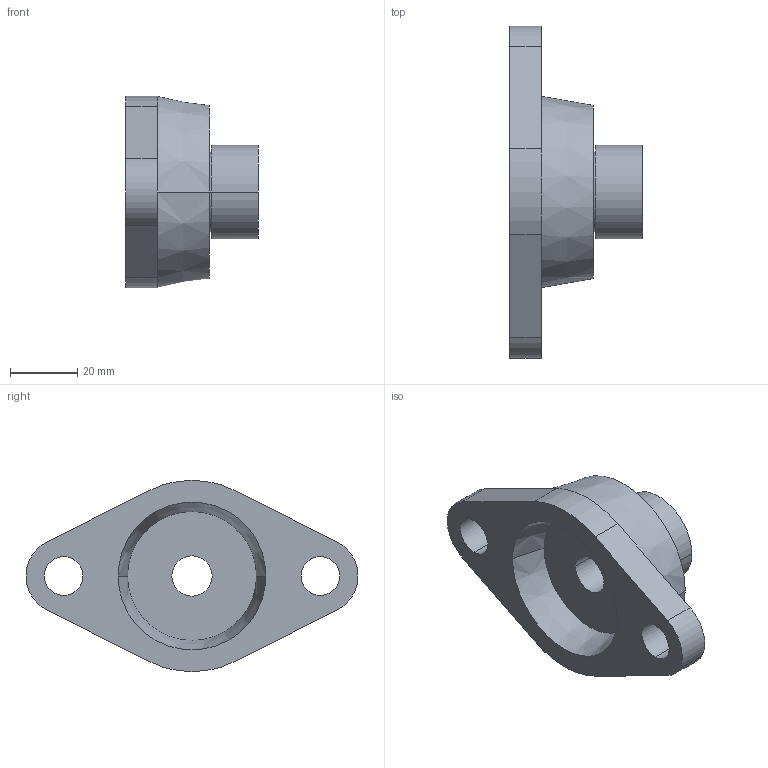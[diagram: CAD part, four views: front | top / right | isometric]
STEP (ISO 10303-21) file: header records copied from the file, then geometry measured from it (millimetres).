
FILE_DESCRIPTION(('SolidDesigner STEP Export'),'2;1');
FILE_NAME('Flanschlager_PCJT_12.stp','2002-07-16T10:48:38',(''),(''),'SolidDesigner STEP processor Version: 9.0 (March 2001)for AP214(CD)(Solid Model)','CoCreate SolidDesigner: 11.00 12-Dec-2001(C) CoCreate Software GmbH','');
FILE_SCHEMA(('AUTOMOTIVE_DESIGN_CC2 {1 2 10303 214 -1 1 5 1}'));
Length unit declared in the file: millimetre
Products named in the file (1): Flanschlager_PCJT_12
Bounding box: 39.6 x 98.92 x 57 mm (x, y, z)
Volume: 59729.7 mm3; surface area: 16195.4 mm2
Topology: 1 solids, 1 shells, 32 faces, 75 edges, 49 vertices
Faces by surface type: cylinder 16, plane 12, cone 4
Entity records: 832 total; most frequent: ORIENTED_EDGE 150, CARTESIAN_POINT 129, DIRECTION 128, EDGE_CURVE 75, VERTEX_POINT 49, AXIS2_PLACEMENT_3D 48, EDGE_LOOP 42, VECTOR 32
